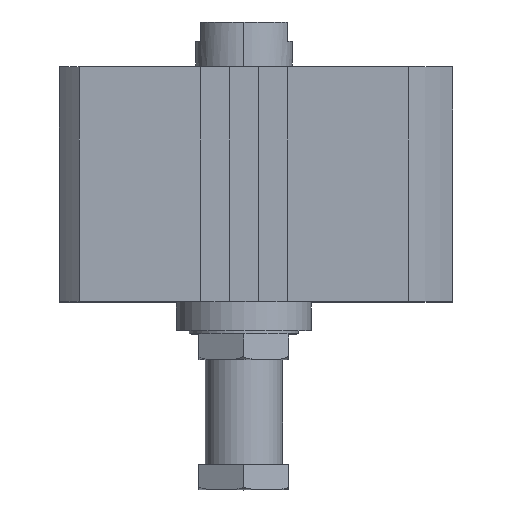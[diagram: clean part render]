
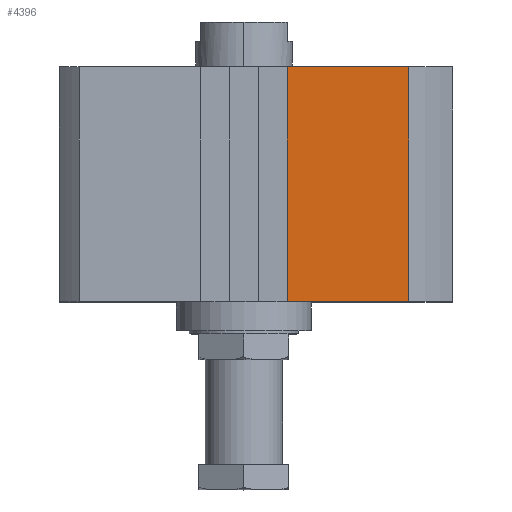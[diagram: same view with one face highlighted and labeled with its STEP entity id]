
A CAD part, top view. The second image highlights one B-rep face of the part: STEP entity #4396.
In plain terms, the highlighted planar face has unit normal (0, 0, 1).
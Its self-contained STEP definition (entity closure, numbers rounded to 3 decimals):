
#28 = EDGE_CURVE ( 'NONE', #3700, #501, #4566, .T. ) ;
#236 = CARTESIAN_POINT ( 'NONE',  ( 51.213, 0., 57.5 ) ) ;
#501 = VERTEX_POINT ( 'NONE', #2662 ) ;
#616 = CARTESIAN_POINT ( 'NONE',  ( 0., -73., 57.5 ) ) ;
#650 = VECTOR ( 'NONE', #2278, 1000. ) ;
#659 = ORIENTED_EDGE ( 'NONE', *, *, #28, .F. ) ;
#845 = EDGE_CURVE ( 'NONE', #501, #3305, #1451, .T. ) ;
#872 = EDGE_CURVE ( 'NONE', #3700, #4314, #1219, .T. ) ;
#1017 = EDGE_CURVE ( 'NONE', #4314, #3305, #3524, .T. ) ;
#1219 = LINE ( 'NONE', #616, #1340 ) ;
#1340 = VECTOR ( 'NONE', #3939, 1000. ) ;
#1370 = ORIENTED_EDGE ( 'NONE', *, *, #1017, .T. ) ;
#1422 = ORIENTED_EDGE ( 'NONE', *, *, #845, .F. ) ;
#1444 = AXIS2_PLACEMENT_3D ( 'NONE', #3490, #3126, #3885 ) ;
#1451 = LINE ( 'NONE', #3543, #3079 ) ;
#1586 = CARTESIAN_POINT ( 'NONE',  ( 51.213, -73., 57.5 ) ) ;
#1955 = CARTESIAN_POINT ( 'NONE',  ( 13.5, -73., 57.5 ) ) ;
#2057 = EDGE_LOOP ( 'NONE', ( #1422, #659, #3907, #1370 ) ) ;
#2278 = DIRECTION ( 'NONE',  ( 0., 1., 0. ) ) ;
#2513 = VECTOR ( 'NONE', #2677, 1000. ) ;
#2634 = FACE_OUTER_BOUND ( 'NONE', #2057, .T. ) ;
#2662 = CARTESIAN_POINT ( 'NONE',  ( 13.5, 0., 57.5 ) ) ;
#2674 = CARTESIAN_POINT ( 'NONE',  ( 51.213, -73., 57.5 ) ) ;
#2677 = DIRECTION ( 'NONE',  ( 0., 1., 0. ) ) ;
#2855 = DIRECTION ( 'NONE',  ( 1., 0., 0. ) ) ;
#3079 = VECTOR ( 'NONE', #2855, 1000. ) ;
#3093 = CARTESIAN_POINT ( 'NONE',  ( 13.5, -73., 57.5 ) ) ;
#3126 = DIRECTION ( 'NONE',  ( 0., 0., 1. ) ) ;
#3305 = VERTEX_POINT ( 'NONE', #236 ) ;
#3490 = CARTESIAN_POINT ( 'NONE',  ( 0., -73., 57.5 ) ) ;
#3524 = LINE ( 'NONE', #1586, #2513 ) ;
#3543 = CARTESIAN_POINT ( 'NONE',  ( 0., 0., 57.5 ) ) ;
#3700 = VERTEX_POINT ( 'NONE', #3093 ) ;
#3826 = PLANE ( 'NONE',  #1444 ) ;
#3885 = DIRECTION ( 'NONE',  ( 1., 0., 0. ) ) ;
#3907 = ORIENTED_EDGE ( 'NONE', *, *, #872, .T. ) ;
#3939 = DIRECTION ( 'NONE',  ( 1., 0., 0. ) ) ;
#4314 = VERTEX_POINT ( 'NONE', #2674 ) ;
#4396 = ADVANCED_FACE ( 'NONE', ( #2634 ), #3826, .T. ) ;
#4566 = LINE ( 'NONE', #1955, #650 ) ;
